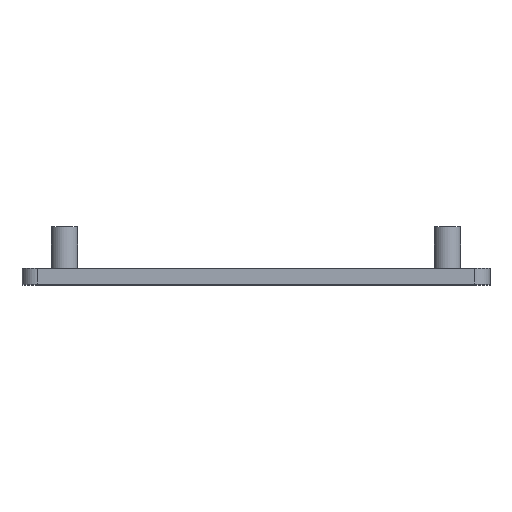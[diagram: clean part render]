
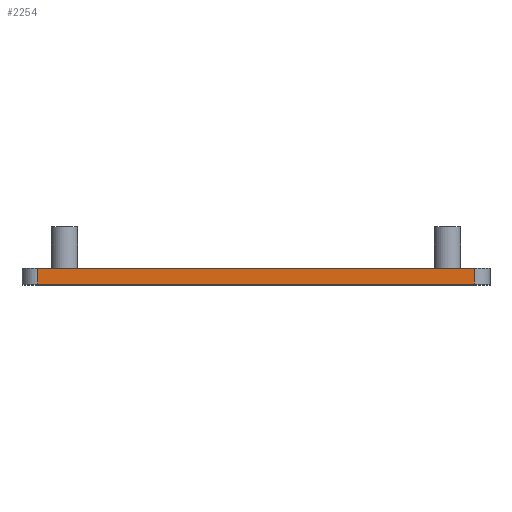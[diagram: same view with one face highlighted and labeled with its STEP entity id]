
A CAD part, top view. The second image highlights one B-rep face of the part: STEP entity #2254.
In plain terms, the highlighted planar face has unit normal (0, 0, 1).
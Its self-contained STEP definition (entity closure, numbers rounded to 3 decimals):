
#44 = PLANE('',#45);
#45 = AXIS2_PLACEMENT_3D('',#46,#47,#48);
#46 = CARTESIAN_POINT('',(3.4,1.,3.4));
#47 = DIRECTION('',(-0.,1.,0.));
#48 = DIRECTION('',(0.,0.,1.));
#100 = PLANE('',#101);
#101 = AXIS2_PLACEMENT_3D('',#102,#103,#104);
#102 = CARTESIAN_POINT('',(3.4,4.,3.4));
#103 = DIRECTION('',(-0.,1.,0.));
#104 = DIRECTION('',(0.,0.,1.));
#126 = CYLINDRICAL_SURFACE('',#127,3.);
#127 = AXIS2_PLACEMENT_3D('',#128,#129,#130);
#128 = CARTESIAN_POINT('',(6.4,1.,151.6));
#129 = DIRECTION('',(-0.,1.,0.));
#130 = DIRECTION('',(-1.,-0.,0.));
#199 = VERTEX_POINT('',#200);
#200 = CARTESIAN_POINT('',(6.4,1.,154.6));
#222 = EDGE_CURVE('',#199,#223,#225,.T.);
#223 = VERTEX_POINT('',#224);
#224 = CARTESIAN_POINT('',(89.6,1.,154.6));
#225 = SURFACE_CURVE('',#226,(#230,#237),.PCURVE_S1.);
#226 = LINE('',#227,#228);
#227 = CARTESIAN_POINT('',(3.4,1.,154.6));
#228 = VECTOR('',#229,1.);
#229 = DIRECTION('',(1.,0.,-0.));
#230 = PCURVE('',#44,#231);
#231 = DEFINITIONAL_REPRESENTATION('',(#232),#236);
#232 = LINE('',#233,#234);
#233 = CARTESIAN_POINT('',(151.2,0.));
#234 = VECTOR('',#235,1.);
#235 = DIRECTION('',(0.,1.));
#236 = ( GEOMETRIC_REPRESENTATION_CONTEXT(2) 
PARAMETRIC_REPRESENTATION_CONTEXT() REPRESENTATION_CONTEXT('2D SPACE',''
  ) );
#237 = PCURVE('',#238,#243);
#238 = PLANE('',#239);
#239 = AXIS2_PLACEMENT_3D('',#240,#241,#242);
#240 = CARTESIAN_POINT('',(3.4,1.,154.6));
#241 = DIRECTION('',(0.,0.,1.));
#242 = DIRECTION('',(1.,0.,-0.));
#243 = DEFINITIONAL_REPRESENTATION('',(#244),#248);
#244 = LINE('',#245,#246);
#245 = CARTESIAN_POINT('',(0.,0.));
#246 = VECTOR('',#247,1.);
#247 = DIRECTION('',(1.,0.));
#248 = ( GEOMETRIC_REPRESENTATION_CONTEXT(2) 
PARAMETRIC_REPRESENTATION_CONTEXT() REPRESENTATION_CONTEXT('2D SPACE',''
  ) );
#271 = CYLINDRICAL_SURFACE('',#272,3.);
#272 = AXIS2_PLACEMENT_3D('',#273,#274,#275);
#273 = CARTESIAN_POINT('',(89.6,1.,151.6));
#274 = DIRECTION('',(-0.,1.,0.));
#275 = DIRECTION('',(1.,0.,-0.));
#1246 = EDGE_CURVE('',#199,#1247,#1249,.T.);
#1247 = VERTEX_POINT('',#1248);
#1248 = CARTESIAN_POINT('',(6.4,4.,154.6));
#1249 = SURFACE_CURVE('',#1250,(#1254,#1261),.PCURVE_S1.);
#1250 = LINE('',#1251,#1252);
#1251 = CARTESIAN_POINT('',(6.4,1.,154.6));
#1252 = VECTOR('',#1253,1.);
#1253 = DIRECTION('',(-0.,1.,0.));
#1254 = PCURVE('',#126,#1255);
#1255 = DEFINITIONAL_REPRESENTATION('',(#1256),#1260);
#1256 = LINE('',#1257,#1258);
#1257 = CARTESIAN_POINT('',(1.571,0.));
#1258 = VECTOR('',#1259,1.);
#1259 = DIRECTION('',(0.,1.));
#1260 = ( GEOMETRIC_REPRESENTATION_CONTEXT(2) 
PARAMETRIC_REPRESENTATION_CONTEXT() REPRESENTATION_CONTEXT('2D SPACE',''
  ) );
#1261 = PCURVE('',#238,#1262);
#1262 = DEFINITIONAL_REPRESENTATION('',(#1263),#1267);
#1263 = LINE('',#1264,#1265);
#1264 = CARTESIAN_POINT('',(3.,0.));
#1265 = VECTOR('',#1266,1.);
#1266 = DIRECTION('',(0.,1.));
#1267 = ( GEOMETRIC_REPRESENTATION_CONTEXT(2) 
PARAMETRIC_REPRESENTATION_CONTEXT() REPRESENTATION_CONTEXT('2D SPACE',''
  ) );
#1321 = EDGE_CURVE('',#1247,#1322,#1324,.T.);
#1322 = VERTEX_POINT('',#1323);
#1323 = CARTESIAN_POINT('',(89.6,4.,154.6));
#1324 = SURFACE_CURVE('',#1325,(#1329,#1336),.PCURVE_S1.);
#1325 = LINE('',#1326,#1327);
#1326 = CARTESIAN_POINT('',(3.4,4.,154.6));
#1327 = VECTOR('',#1328,1.);
#1328 = DIRECTION('',(1.,0.,-0.));
#1329 = PCURVE('',#100,#1330);
#1330 = DEFINITIONAL_REPRESENTATION('',(#1331),#1335);
#1331 = LINE('',#1332,#1333);
#1332 = CARTESIAN_POINT('',(151.2,0.));
#1333 = VECTOR('',#1334,1.);
#1334 = DIRECTION('',(0.,1.));
#1335 = ( GEOMETRIC_REPRESENTATION_CONTEXT(2) 
PARAMETRIC_REPRESENTATION_CONTEXT() REPRESENTATION_CONTEXT('2D SPACE',''
  ) );
#1336 = PCURVE('',#238,#1337);
#1337 = DEFINITIONAL_REPRESENTATION('',(#1338),#1342);
#1338 = LINE('',#1339,#1340);
#1339 = CARTESIAN_POINT('',(0.,3.));
#1340 = VECTOR('',#1341,1.);
#1341 = DIRECTION('',(1.,0.));
#1342 = ( GEOMETRIC_REPRESENTATION_CONTEXT(2) 
PARAMETRIC_REPRESENTATION_CONTEXT() REPRESENTATION_CONTEXT('2D SPACE',''
  ) );
#2232 = EDGE_CURVE('',#223,#1322,#2233,.T.);
#2233 = SURFACE_CURVE('',#2234,(#2238,#2245),.PCURVE_S1.);
#2234 = LINE('',#2235,#2236);
#2235 = CARTESIAN_POINT('',(89.6,1.,154.6));
#2236 = VECTOR('',#2237,1.);
#2237 = DIRECTION('',(-0.,1.,0.));
#2238 = PCURVE('',#271,#2239);
#2239 = DEFINITIONAL_REPRESENTATION('',(#2240),#2244);
#2240 = LINE('',#2241,#2242);
#2241 = CARTESIAN_POINT('',(-1.571,0.));
#2242 = VECTOR('',#2243,1.);
#2243 = DIRECTION('',(-0.,1.));
#2244 = ( GEOMETRIC_REPRESENTATION_CONTEXT(2) 
PARAMETRIC_REPRESENTATION_CONTEXT() REPRESENTATION_CONTEXT('2D SPACE',''
  ) );
#2245 = PCURVE('',#238,#2246);
#2246 = DEFINITIONAL_REPRESENTATION('',(#2247),#2251);
#2247 = LINE('',#2248,#2249);
#2248 = CARTESIAN_POINT('',(86.2,0.));
#2249 = VECTOR('',#2250,1.);
#2250 = DIRECTION('',(0.,1.));
#2251 = ( GEOMETRIC_REPRESENTATION_CONTEXT(2) 
PARAMETRIC_REPRESENTATION_CONTEXT() REPRESENTATION_CONTEXT('2D SPACE',''
  ) );
#2254 = ADVANCED_FACE('',(#2255),#238,.T.);
#2255 = FACE_BOUND('',#2256,.T.);
#2256 = EDGE_LOOP('',(#2257,#2258,#2259,#2260));
#2257 = ORIENTED_EDGE('',*,*,#1321,.F.);
#2258 = ORIENTED_EDGE('',*,*,#1246,.F.);
#2259 = ORIENTED_EDGE('',*,*,#222,.T.);
#2260 = ORIENTED_EDGE('',*,*,#2232,.T.);
